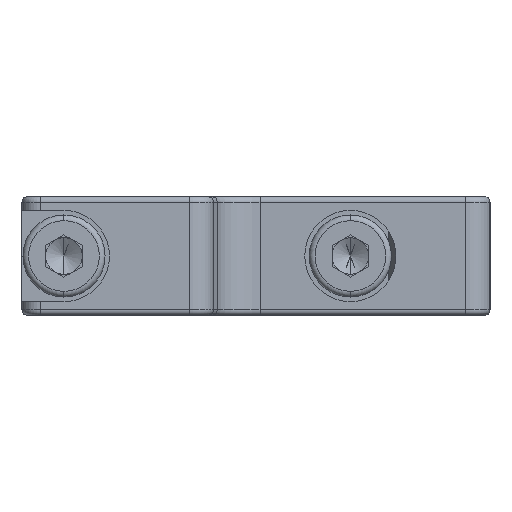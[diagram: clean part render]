
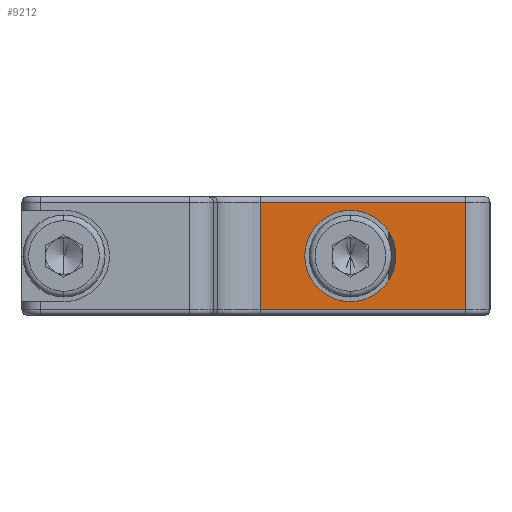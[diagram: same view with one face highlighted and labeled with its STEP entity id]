
A CAD part, left-side view. The second image highlights one B-rep face of the part: STEP entity #9212.
In plain terms, the highlighted planar face has unit normal (-1, 0, 0).
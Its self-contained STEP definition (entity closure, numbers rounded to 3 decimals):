
#11 = DIRECTION ( 'NONE',  ( -1., 0., 0. ) ) ;
#393 = ORIENTED_EDGE ( 'NONE', *, *, #15408, .F. ) ;
#688 = DIRECTION ( 'NONE',  ( 0., 0., 1. ) ) ;
#916 = CARTESIAN_POINT ( 'NONE',  ( -20.5, 0., 0.3 ) ) ;
#922 = CARTESIAN_POINT ( 'NONE',  ( -20.5, 0., -6. ) ) ;
#1477 = VERTEX_POINT ( 'NONE', #13366 ) ;
#1738 = CARTESIAN_POINT ( 'NONE',  ( -20.5, 13.696, -6. ) ) ;
#1847 = CARTESIAN_POINT ( 'NONE',  ( -20.5, 13.696, 6.2 ) ) ;
#1991 = DIRECTION ( 'NONE',  ( 0., 0., 1. ) ) ;
#2072 = FACE_OUTER_BOUND ( 'NONE', #15794, .T. ) ;
#2315 = ORIENTED_EDGE ( 'NONE', *, *, #8398, .T. ) ;
#4267 = VECTOR ( 'NONE', #10910, 1000. ) ;
#4803 = EDGE_LOOP ( 'NONE', ( #7654, #393 ) ) ;
#4914 = VERTEX_POINT ( 'NONE', #11172 ) ;
#4953 = VERTEX_POINT ( 'NONE', #8878 ) ;
#5176 = EDGE_CURVE ( 'NONE', #5582, #4914, #7803, .T. ) ;
#5305 = AXIS2_PLACEMENT_3D ( 'NONE', #922, #5911, #1991 ) ;
#5366 = CARTESIAN_POINT ( 'NONE',  ( -20.5, 20., 3.25 ) ) ;
#5582 = VERTEX_POINT ( 'NONE', #11462 ) ;
#5911 = DIRECTION ( 'NONE',  ( -1., 0., 0. ) ) ;
#6238 = DIRECTION ( 'NONE',  ( 0., 0., 1. ) ) ;
#6590 = DIRECTION ( 'NONE',  ( -1., 0., 0. ) ) ;
#7133 = PLANE ( 'NONE',  #5305 ) ;
#7257 = EDGE_CURVE ( 'NONE', #4953, #11027, #7300, .T. ) ;
#7300 = LINE ( 'NONE', #916, #7628 ) ;
#7412 = CARTESIAN_POINT ( 'NONE',  ( -20.5, 13.696, 0.3 ) ) ;
#7628 = VECTOR ( 'NONE', #15906, 1000. ) ;
#7654 = ORIENTED_EDGE ( 'NONE', *, *, #5176, .F. ) ;
#7793 = DIRECTION ( 'NONE',  ( 0., 1., 0. ) ) ;
#7803 = CIRCLE ( 'NONE', #15652, 2.5 ) ;
#7809 = DIRECTION ( 'NONE',  ( 0., 0., 1. ) ) ;
#8293 = ORIENTED_EDGE ( 'NONE', *, *, #9308, .T. ) ;
#8398 = EDGE_CURVE ( 'NONE', #13956, #1477, #15254, .T. ) ;
#8484 = VECTOR ( 'NONE', #7809, 1000. ) ;
#8616 = CARTESIAN_POINT ( 'NONE',  ( -20.5, 24.949, 0. ) ) ;
#8878 = CARTESIAN_POINT ( 'NONE',  ( -20.5, 24.949, 0.3 ) ) ;
#9184 = LINE ( 'NONE', #1738, #8484 ) ;
#9212 = ADVANCED_FACE ( 'NONE', ( #9349, #2072 ), #7133, .T. ) ;
#9308 = EDGE_CURVE ( 'NONE', #1477, #4953, #14766, .T. ) ;
#9349 = FACE_BOUND ( 'NONE', #4803, .T. ) ;
#9997 = VECTOR ( 'NONE', #7793, 1000. ) ;
#10910 = DIRECTION ( 'NONE',  ( 0., 0., -1. ) ) ;
#11027 = VERTEX_POINT ( 'NONE', #7412 ) ;
#11172 = CARTESIAN_POINT ( 'NONE',  ( -20.5, 20., 0.75 ) ) ;
#11462 = CARTESIAN_POINT ( 'NONE',  ( -20.5, 20., 5.75 ) ) ;
#11552 = CARTESIAN_POINT ( 'NONE',  ( -20.5, 24.949, 6.2 ) ) ;
#12135 = ORIENTED_EDGE ( 'NONE', *, *, #7257, .T. ) ;
#12679 = CIRCLE ( 'NONE', #12927, 2.5 ) ;
#12927 = AXIS2_PLACEMENT_3D ( 'NONE', #5366, #6590, #688 ) ;
#13366 = CARTESIAN_POINT ( 'NONE',  ( -20.5, 24.949, 6.2 ) ) ;
#13956 = VERTEX_POINT ( 'NONE', #1847 ) ;
#14766 = LINE ( 'NONE', #8616, #4267 ) ;
#14851 = CARTESIAN_POINT ( 'NONE',  ( -20.5, 20., 3.25 ) ) ;
#15254 = LINE ( 'NONE', #11552, #9997 ) ;
#15408 = EDGE_CURVE ( 'NONE', #4914, #5582, #12679, .T. ) ;
#15652 = AXIS2_PLACEMENT_3D ( 'NONE', #14851, #11, #6238 ) ;
#15723 = EDGE_CURVE ( 'NONE', #11027, #13956, #9184, .T. ) ;
#15794 = EDGE_LOOP ( 'NONE', ( #8293, #12135, #16032, #2315 ) ) ;
#15906 = DIRECTION ( 'NONE',  ( 0., -1., 0. ) ) ;
#16032 = ORIENTED_EDGE ( 'NONE', *, *, #15723, .T. ) ;
